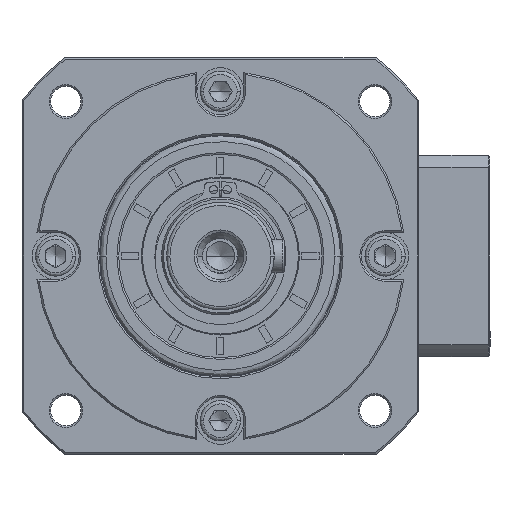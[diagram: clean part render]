
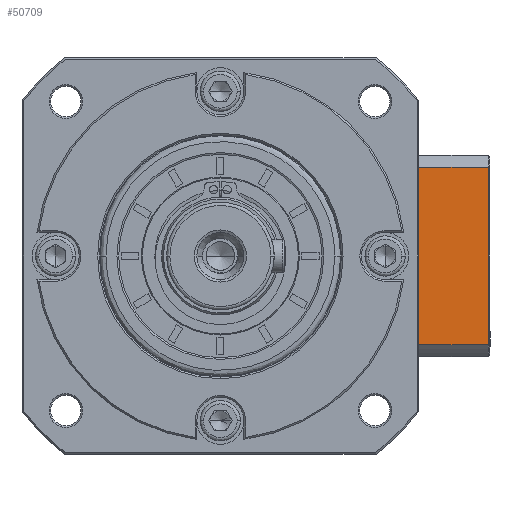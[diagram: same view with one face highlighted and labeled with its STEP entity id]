
A CAD part, left-side view. The second image highlights one B-rep face of the part: STEP entity #50709.
In plain terms, the highlighted planar face has unit normal (-1, 0, 0).
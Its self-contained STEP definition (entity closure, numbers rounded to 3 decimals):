
#802 = CARTESIAN_POINT ( 'NONE',  ( -22.126, -65.373, -141.416 ) ) ;
#1759 = CARTESIAN_POINT ( 'NONE',  ( -22.126, -70.373, -149.845 ) ) ;
#2133 = ORIENTED_EDGE ( 'NONE', *, *, #80921, .F. ) ;
#2648 = LINE ( 'NONE', #92547, #104786 ) ;
#6874 = DIRECTION ( 'NONE',  ( 0., 1., 0. ) ) ;
#7088 = B_SPLINE_CURVE_WITH_KNOTS ( 'NONE', 3,
 ( #17750, #42777, #123749, #31192, #124328, #44499 ),
 .UNSPECIFIED., .F., .F.,
 ( 4, 2, 4 ),
 ( 0., 0.005, 0.01 ),
 .UNSPECIFIED. ) ;
#8196 = ORIENTED_EDGE ( 'NONE', *, *, #38634, .F. ) ;
#9713 = CARTESIAN_POINT ( 'NONE',  ( -22.126, -93.073, -149.845 ) ) ;
#9796 = CARTESIAN_POINT ( 'NONE',  ( -22.126, -50.873, -105.36 ) ) ;
#10059 = CARTESIAN_POINT ( 'NONE',  ( -22.126, -65.373, -105.36 ) ) ;
#12274 = ORIENTED_EDGE ( 'NONE', *, *, #98110, .F. ) ;
#13426 = VERTEX_POINT ( 'NONE', #31468 ) ;
#17750 = CARTESIAN_POINT ( 'NONE',  ( -22.126, -70.373, -149.845 ) ) ;
#19021 = EDGE_CURVE ( 'NONE', #132418, #101377, #68774, .T. ) ;
#20568 = VECTOR ( 'NONE', #47879, 1000. ) ;
#23134 = DIRECTION ( 'NONE',  ( 0., 1., 0. ) ) ;
#27881 = DIRECTION ( 'NONE',  ( 0., 1., 0. ) ) ;
#29354 = CARTESIAN_POINT ( 'NONE',  ( -22.126, -92.573, -153.388 ) ) ;
#30487 = VERTEX_POINT ( 'NONE', #34360 ) ;
#31192 = CARTESIAN_POINT ( 'NONE',  ( -22.126, -66.922, -144.295 ) ) ;
#31468 = CARTESIAN_POINT ( 'NONE',  ( -22.126, -70.373, -96.93 ) ) ;
#33378 = VECTOR ( 'NONE', #96897, 1000. ) ;
#34360 = CARTESIAN_POINT ( 'NONE',  ( -22.126, -65.373, -105.36 ) ) ;
#34523 = CARTESIAN_POINT ( 'NONE',  ( -22.126, -93.073, -96.93 ) ) ;
#36892 = CARTESIAN_POINT ( 'NONE',  ( -22.126, -68.597, -99.675 ) ) ;
#38634 = EDGE_CURVE ( 'NONE', #120337, #101377, #2648, .T. ) ;
#41585 = LINE ( 'NONE', #93216, #112503 ) ;
#42452 = ORIENTED_EDGE ( 'NONE', *, *, #19021, .T. ) ;
#42454 = EDGE_LOOP ( 'NONE', ( #12274, #2133, #51490, #49939, #42452, #8196, #152774, #65000 ) ) ;
#42777 = CARTESIAN_POINT ( 'NONE',  ( -22.126, -69.471, -148.481 ) ) ;
#44499 = CARTESIAN_POINT ( 'NONE',  ( -22.126, -65.373, -141.416 ) ) ;
#47879 = DIRECTION ( 'NONE',  ( 0., -1., 0. ) ) ;
#49939 = ORIENTED_EDGE ( 'NONE', *, *, #138887, .F. ) ;
#50298 = CARTESIAN_POINT ( 'NONE',  ( -22.126, -70.373, -96.93 ) ) ;
#50709 = ADVANCED_FACE ( 'NONE', ( #137592 ), #99531, .F. ) ;
#51490 = ORIENTED_EDGE ( 'NONE', *, *, #113940, .F. ) ;
#65000 = ORIENTED_EDGE ( 'NONE', *, *, #128971, .F. ) ;
#67753 = CARTESIAN_POINT ( 'NONE',  ( -22.126, -92.573, -149.845 ) ) ;
#68774 = LINE ( 'NONE', #83451, #33378 ) ;
#73332 = B_SPLINE_CURVE_WITH_KNOTS ( 'NONE', 3,
 ( #10059, #103292, #116678, #36892, #130074, #50298 ),
 .UNSPECIFIED., .F., .F.,
 ( 4, 2, 4 ),
 ( 0., 0.005, 0.01 ),
 .UNSPECIFIED. ) ;
#79219 = DIRECTION ( 'NONE',  ( 0., -1., 0. ) ) ;
#80921 = EDGE_CURVE ( 'NONE', #13426, #170701, #91429, .T. ) ;
#82083 = CARTESIAN_POINT ( 'NONE',  ( -22.126, -92.573, -96.93 ) ) ;
#82823 = AXIS2_PLACEMENT_3D ( 'NONE', #166503, #86710, #6874 ) ;
#83451 = CARTESIAN_POINT ( 'NONE',  ( -22.126, -50.873, -90.888 ) ) ;
#86710 = DIRECTION ( 'NONE',  ( 1., 0., 0. ) ) ;
#91429 = LINE ( 'NONE', #34523, #20568 ) ;
#92547 = CARTESIAN_POINT ( 'NONE',  ( -22.126, -65.373, -141.416 ) ) ;
#93216 = CARTESIAN_POINT ( 'NONE',  ( -22.126, -93.073, -105.36 ) ) ;
#96897 = DIRECTION ( 'NONE',  ( 0., 0., -1. ) ) ;
#98110 = EDGE_CURVE ( 'NONE', #170701, #162922, #167486, .T. ) ;
#99531 = PLANE ( 'NONE',  #82823 ) ;
#100846 = VECTOR ( 'NONE', #135996, 1000. ) ;
#101377 = VERTEX_POINT ( 'NONE', #158809 ) ;
#101669 = EDGE_CURVE ( 'NONE', #111409, #120337, #7088, .T. ) ;
#103292 = CARTESIAN_POINT ( 'NONE',  ( -22.126, -66.122, -103.905 ) ) ;
#104786 = VECTOR ( 'NONE', #27881, 1000. ) ;
#111409 = VERTEX_POINT ( 'NONE', #1759 ) ;
#112503 = VECTOR ( 'NONE', #79219, 1000. ) ;
#113940 = EDGE_CURVE ( 'NONE', #30487, #13426, #73332, .T. ) ;
#116678 = CARTESIAN_POINT ( 'NONE',  ( -22.126, -66.922, -102.481 ) ) ;
#120337 = VERTEX_POINT ( 'NONE', #802 ) ;
#123749 = CARTESIAN_POINT ( 'NONE',  ( -22.126, -68.597, -147.101 ) ) ;
#124249 = LINE ( 'NONE', #9713, #155570 ) ;
#124328 = CARTESIAN_POINT ( 'NONE',  ( -22.126, -66.122, -142.871 ) ) ;
#128971 = EDGE_CURVE ( 'NONE', #162922, #111409, #124249, .T. ) ;
#130074 = CARTESIAN_POINT ( 'NONE',  ( -22.126, -69.471, -98.295 ) ) ;
#132418 = VERTEX_POINT ( 'NONE', #9796 ) ;
#135996 = DIRECTION ( 'NONE',  ( 0., 0., -1. ) ) ;
#137592 = FACE_OUTER_BOUND ( 'NONE', #42454, .T. ) ;
#138887 = EDGE_CURVE ( 'NONE', #132418, #30487, #41585, .T. ) ;
#152774 = ORIENTED_EDGE ( 'NONE', *, *, #101669, .F. ) ;
#155570 = VECTOR ( 'NONE', #23134, 1000. ) ;
#158809 = CARTESIAN_POINT ( 'NONE',  ( -22.126, -50.873, -141.416 ) ) ;
#162922 = VERTEX_POINT ( 'NONE', #67753 ) ;
#166503 = CARTESIAN_POINT ( 'NONE',  ( -22.126, -93.073, -153.388 ) ) ;
#167486 = LINE ( 'NONE', #29354, #100846 ) ;
#170701 = VERTEX_POINT ( 'NONE', #82083 ) ;
